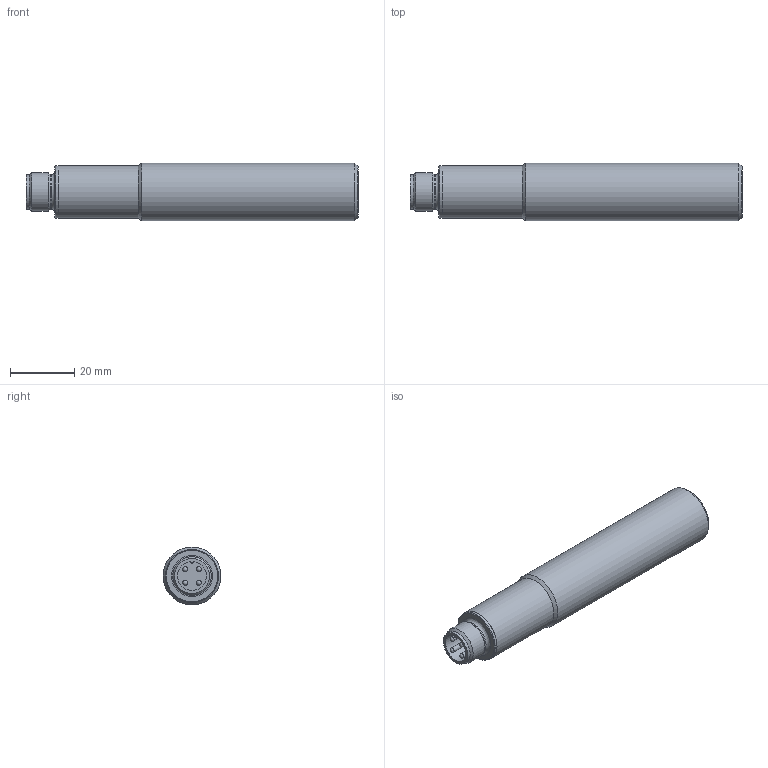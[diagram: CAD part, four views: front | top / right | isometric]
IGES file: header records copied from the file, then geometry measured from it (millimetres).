
Global section: file name: No Iges File Name specified; native system: AutoDesk Inventor R6.1; preprocessor: AutoDesk Inventor Iges Exporter R6.1; author: No Author specified; organization: No Organization specified; date: 20050809.113108; units: millimetre
Bounding box: 103.3 x 18 x 18 mm (x, y, z)
Surface area: 6364.6 mm2 (no closed solid volume)
Topology: 0 solids, 0 shells, 32 faces, 99 edges, 72 vertices
Faces by surface type: revolution 24, plane 7, bspline 1
